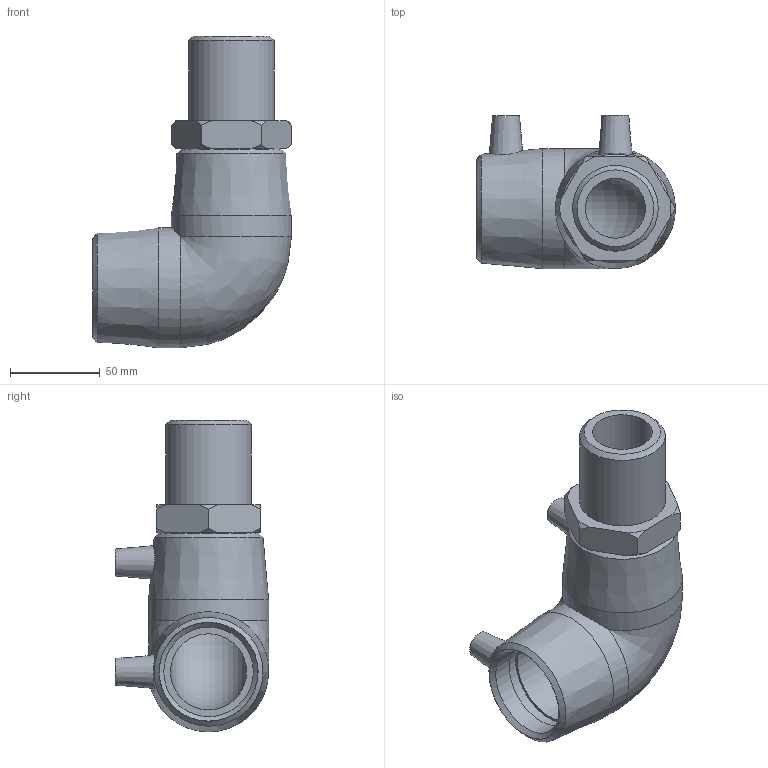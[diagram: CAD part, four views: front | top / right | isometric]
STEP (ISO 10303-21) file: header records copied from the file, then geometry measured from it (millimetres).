
FILE_DESCRIPTION(/* description */ ('PLASSON 90° ELBOW MALE TRANSITION 50 x 11⁄2"'),/* implementation_level */ '2;1');
FILE_NAME(/* name */ 'C:\Dropbox\KIMPROJECTS-Inventor\99-16-3568-Processing\ElectroFusion Fittings\02.02.20\492504\492504050015N.ipt.stp',/* time_stamp */ '2020-02-02T12:19:29+02:00',/* author */ ('KIM'),/* organization */ (''),/* preprocessor_version */ 'ST-DEVELOPER v15.6',/* originating_system */ 'Autodesk Inventor 2015',/* authorisation */ '');
FILE_SCHEMA (('AUTOMOTIVE_DESIGN { 1 0 10303 214 3 1 1 }'));
Length unit declared in the file: millimetre
Products named in the file (1): 492504050015N
Bounding box: 111 x 85.5 x 174 mm (x, y, z)
Volume: 352010.7 mm3; surface area: 75859.4 mm2
Topology: 1 solids, 2 shells, 59 faces, 134 edges, 87 vertices
Faces by surface type: plane 22, cone 22, cylinder 13, bspline 1, torus 1
Full cylindrical faces by diameter (mm): 4 x2, 10 x2, 33.462 x1, 35 x1, 47.803 x1, 50 x4, 67 x2
Entity records: 1514 total; most frequent: CARTESIAN_POINT 371, DIRECTION 238, ORIENTED_EDGE 190, AXIS2_PLACEMENT_3D 110, EDGE_LOOP 99, EDGE_CURVE 95, VERTEX_POINT 76, FACE_OUTER_BOUND 59
